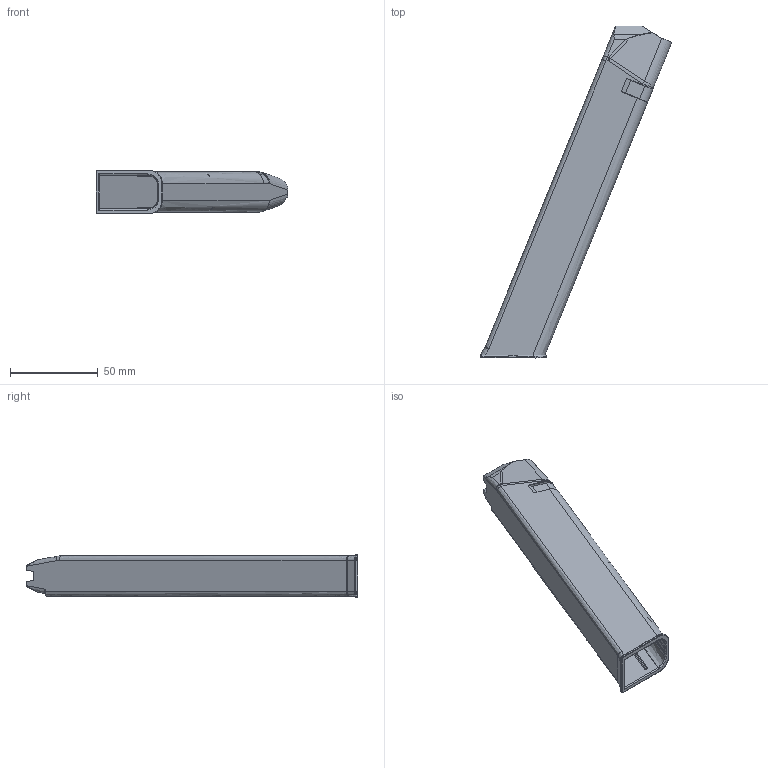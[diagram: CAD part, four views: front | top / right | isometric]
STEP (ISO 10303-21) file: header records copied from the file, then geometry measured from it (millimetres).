
FILE_DESCRIPTION(/* description */ (''),/* implementation_level */ '2;1');
FILE_NAME(/* name */ 'D:\~~GatCad\Printable Projects\Extendez Mag V1.0\STEP\Extendez Mag Body V1.3.stp',/* time_stamp */ '2019-09-06T21:16:00-05:00',/* author */ ('johne'),/* organization */ (''),/* preprocessor_version */ 'ST-DEVELOPER v18',/* originating_system */ 'Autodesk Inventor 2020',/* authorisation */ '');
FILE_SCHEMA (('AUTOMOTIVE_DESIGN { 1 0 10303 214 3 1 1 }'));
Length unit declared in the file: millimetre
Products named in the file (1): Extendez Mag Body V1.3
Bounding box: 108.97 x 188.78 x 24.87 mm (x, y, z)
Volume: 34121.7 mm3; surface area: 40449.1 mm2
Topology: 1 solids, 7 shells, 454 faces, 1146 edges, 685 vertices
Faces by surface type: bspline 230, plane 111, cylinder 107, sphere 4, torus 2
Entity records: 20325 total; most frequent: CARTESIAN_POINT 10606, ORIENTED_EDGE 2248, DIRECTION 1675, EDGE_CURVE 1124, VERTEX_POINT 684, AXIS2_PLACEMENT_3D 618, EDGE_LOOP 454, FACE_OUTER_BOUND 453
